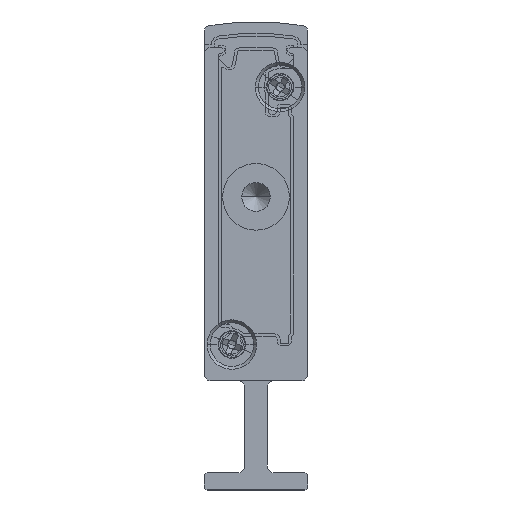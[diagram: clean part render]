
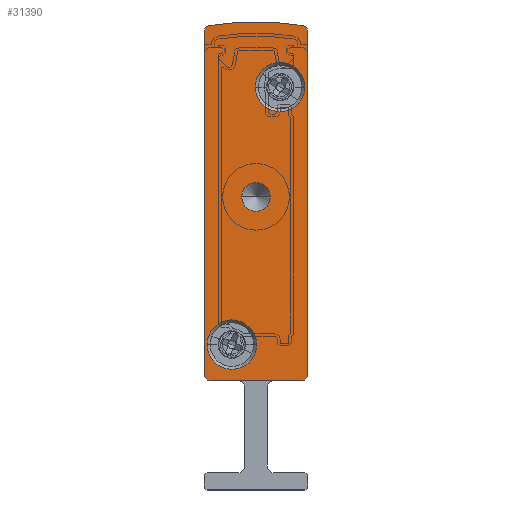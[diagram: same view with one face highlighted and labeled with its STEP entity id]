
A CAD part, front view. The second image highlights one B-rep face of the part: STEP entity #31390.
In plain terms, the highlighted planar face has unit normal (0, -1, 0).
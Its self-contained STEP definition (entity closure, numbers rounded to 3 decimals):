
#543 = DIRECTION ( 'NONE',  ( 0., 1., 0. ) ) ;
#758 = ORIENTED_EDGE ( 'NONE', *, *, #8945, .F. ) ;
#978 = CIRCLE ( 'NONE', #17399, 1.25 ) ;
#1006 = EDGE_LOOP ( 'NONE', ( #30851, #9257 ) ) ;
#1036 = ORIENTED_EDGE ( 'NONE', *, *, #18098, .F. ) ;
#1415 = VERTEX_POINT ( 'NONE', #18070 ) ;
#1698 = VERTEX_POINT ( 'NONE', #27567 ) ;
#1901 = ORIENTED_EDGE ( 'NONE', *, *, #25332, .F. ) ;
#1903 = FACE_BOUND ( 'NONE', #24017, .T. ) ;
#2108 = CARTESIAN_POINT ( 'NONE',  ( 8.75, -2.5, 35.05 ) ) ;
#2663 = CARTESIAN_POINT ( 'NONE',  ( 6.6, -2.5, 35.05 ) ) ;
#3103 = DIRECTION ( 'NONE',  ( -1., 0., 0. ) ) ;
#4769 = EDGE_CURVE ( 'NONE', #12207, #1415, #20512, .T. ) ;
#4867 = DIRECTION ( 'NONE',  ( 0., -1., 0. ) ) ;
#4934 = ORIENTED_EDGE ( 'NONE', *, *, #33069, .F. ) ;
#4964 = LINE ( 'NONE', #24997, #24645 ) ;
#5056 = DIRECTION ( 'NONE',  ( 0., 1., 0. ) ) ;
#5070 = CIRCLE ( 'NONE', #27342, 2.15 ) ;
#5125 = DIRECTION ( 'NONE',  ( 1., 0., 0. ) ) ;
#5697 = DIRECTION ( 'NONE',  ( 0., 0., -1. ) ) ;
#5745 = CIRCLE ( 'NONE', #10841, 23.658 ) ;
#6255 = AXIS2_PLACEMENT_3D ( 'NONE', #27697, #5056, #28049 ) ;
#6332 = DIRECTION ( 'NONE',  ( -1., 0., 0. ) ) ;
#6546 = CARTESIAN_POINT ( 'NONE',  ( 3.25, -2.5, 25.5 ) ) ;
#7008 = CARTESIAN_POINT ( 'NONE',  ( 0.5, -2.5, 9.5 ) ) ;
#7122 = FACE_BOUND ( 'NONE', #29402, .T. ) ;
#7312 = CIRCLE ( 'NONE', #9342, 2.15 ) ;
#7508 = CARTESIAN_POINT ( 'NONE',  ( 9., -2.5, 39.902 ) ) ;
#7965 = CARTESIAN_POINT ( 'NONE',  ( 0., -2.5, 39.902 ) ) ;
#8040 = CIRCLE ( 'NONE', #28547, 2.15 ) ;
#8945 = EDGE_CURVE ( 'NONE', #29368, #22353, #5745, .T. ) ;
#9257 = ORIENTED_EDGE ( 'NONE', *, *, #20342, .F. ) ;
#9342 = AXIS2_PLACEMENT_3D ( 'NONE', #28297, #4867, #17829 ) ;
#9797 = ORIENTED_EDGE ( 'NONE', *, *, #18052, .F. ) ;
#9821 = CIRCLE ( 'NONE', #20330, 2.15 ) ;
#9887 = CARTESIAN_POINT ( 'NONE',  ( 0., -2.5, 39.902 ) ) ;
#9938 = CARTESIAN_POINT ( 'NONE',  ( 4.5, -2.5, 25.5 ) ) ;
#10011 = CARTESIAN_POINT ( 'NONE',  ( 8.592, -2.5, 40.393 ) ) ;
#10577 = AXIS2_PLACEMENT_3D ( 'NONE', #26827, #13664, #31949 ) ;
#10786 = DIRECTION ( 'NONE',  ( 0., 1., 0. ) ) ;
#10841 = AXIS2_PLACEMENT_3D ( 'NONE', #20889, #10786, #28718 ) ;
#11107 = AXIS2_PLACEMENT_3D ( 'NONE', #13376, #20995, #13486 ) ;
#11274 = CIRCLE ( 'NONE', #11107, 0.5 ) ;
#11492 = CARTESIAN_POINT ( 'NONE',  ( 8.5, -2.5, 39.902 ) ) ;
#11592 = EDGE_CURVE ( 'NONE', #23079, #12207, #4964, .T. ) ;
#11868 = ORIENTED_EDGE ( 'NONE', *, *, #28988, .T. ) ;
#12207 = VERTEX_POINT ( 'NONE', #7008 ) ;
#13340 = CARTESIAN_POINT ( 'NONE',  ( 8.5, -2.5, 10. ) ) ;
#13376 = CARTESIAN_POINT ( 'NONE',  ( 0.5, -2.5, 39.902 ) ) ;
#13486 = DIRECTION ( 'NONE',  ( -1., 0., 0. ) ) ;
#13664 = DIRECTION ( 'NONE',  ( 0., 1., 0. ) ) ;
#13829 = ORIENTED_EDGE ( 'NONE', *, *, #21695, .T. ) ;
#13963 = FACE_BOUND ( 'NONE', #1006, .T. ) ;
#14088 = DIRECTION ( 'NONE',  ( 1., 0., 0. ) ) ;
#14430 = EDGE_LOOP ( 'NONE', ( #20345, #1036, #18154, #19951, #25477, #28944, #4934, #758 ) ) ;
#14652 = VERTEX_POINT ( 'NONE', #2108 ) ;
#14654 = VERTEX_POINT ( 'NONE', #7508 ) ;
#14868 = VERTEX_POINT ( 'NONE', #16371 ) ;
#15480 = DIRECTION ( 'NONE',  ( 0., -1., 0. ) ) ;
#15961 = FACE_OUTER_BOUND ( 'NONE', #14430, .T. ) ;
#16234 = VERTEX_POINT ( 'NONE', #6546 ) ;
#16371 = CARTESIAN_POINT ( 'NONE',  ( 0.25, -2.5, 12.65 ) ) ;
#17399 = AXIS2_PLACEMENT_3D ( 'NONE', #9938, #22840, #24973 ) ;
#17553 = CIRCLE ( 'NONE', #23535, 1.25 ) ;
#17632 = VERTEX_POINT ( 'NONE', #22971 ) ;
#17829 = DIRECTION ( 'NONE',  ( 1., 0., 0. ) ) ;
#17982 = DIRECTION ( 'NONE',  ( 1., 0., 0. ) ) ;
#18052 = EDGE_CURVE ( 'NONE', #1698, #14868, #5070, .T. ) ;
#18070 = CARTESIAN_POINT ( 'NONE',  ( 0., -2.5, 10. ) ) ;
#18098 = EDGE_CURVE ( 'NONE', #1415, #20911, #30369, .T. ) ;
#18154 = ORIENTED_EDGE ( 'NONE', *, *, #4769, .F. ) ;
#18671 = CARTESIAN_POINT ( 'NONE',  ( 9., -2.5, 39.902 ) ) ;
#18731 = EDGE_CURVE ( 'NONE', #14652, #19859, #9821, .T. ) ;
#19058 = CARTESIAN_POINT ( 'NONE',  ( 8.5, -2.5, 9.5 ) ) ;
#19076 = AXIS2_PLACEMENT_3D ( 'NONE', #11492, #28984, #6332 ) ;
#19859 = VERTEX_POINT ( 'NONE', #27737 ) ;
#19951 = ORIENTED_EDGE ( 'NONE', *, *, #11592, .F. ) ;
#19994 = EDGE_CURVE ( 'NONE', #20911, #29368, #11274, .T. ) ;
#20330 = AXIS2_PLACEMENT_3D ( 'NONE', #27126, #29413, #14088 ) ;
#20342 = EDGE_CURVE ( 'NONE', #19859, #14652, #8040, .T. ) ;
#20345 = ORIENTED_EDGE ( 'NONE', *, *, #19994, .F. ) ;
#20512 = CIRCLE ( 'NONE', #10577, 0.5 ) ;
#20538 = DIRECTION ( 'NONE',  ( 0., -1., 0. ) ) ;
#20889 = CARTESIAN_POINT ( 'NONE',  ( 4.5, -2.5, 17.092 ) ) ;
#20911 = VERTEX_POINT ( 'NONE', #9887 ) ;
#20927 = EDGE_CURVE ( 'NONE', #14654, #17632, #28761, .T. ) ;
#20995 = DIRECTION ( 'NONE',  ( 0., 1., 0. ) ) ;
#21498 = DIRECTION ( 'NONE',  ( 0., 1., 0. ) ) ;
#21695 = EDGE_CURVE ( 'NONE', #16234, #23379, #978, .T. ) ;
#22353 = VERTEX_POINT ( 'NONE', #10011 ) ;
#22840 = DIRECTION ( 'NONE',  ( 0., 1., 0. ) ) ;
#22971 = CARTESIAN_POINT ( 'NONE',  ( 9., -2.5, 10. ) ) ;
#23079 = VERTEX_POINT ( 'NONE', #19058 ) ;
#23379 = VERTEX_POINT ( 'NONE', #33268 ) ;
#23535 = AXIS2_PLACEMENT_3D ( 'NONE', #26845, #21498, #29473 ) ;
#24017 = EDGE_LOOP ( 'NONE', ( #9797, #1901 ) ) ;
#24354 = VECTOR ( 'NONE', #5697, 1000. ) ;
#24575 = AXIS2_PLACEMENT_3D ( 'NONE', #13340, #543, #3103 ) ;
#24645 = VECTOR ( 'NONE', #30246, 1000. ) ;
#24973 = DIRECTION ( 'NONE',  ( -1., 0., 0. ) ) ;
#24993 = EDGE_CURVE ( 'NONE', #17632, #23079, #25628, .T. ) ;
#24997 = CARTESIAN_POINT ( 'NONE',  ( 0.5, -2.5, 9.5 ) ) ;
#25332 = EDGE_CURVE ( 'NONE', #14868, #1698, #7312, .T. ) ;
#25477 = ORIENTED_EDGE ( 'NONE', *, *, #24993, .F. ) ;
#25628 = CIRCLE ( 'NONE', #24575, 0.5 ) ;
#26338 = VECTOR ( 'NONE', #31053, 1000. ) ;
#26827 = CARTESIAN_POINT ( 'NONE',  ( 0.5, -2.5, 10. ) ) ;
#26845 = CARTESIAN_POINT ( 'NONE',  ( 4.5, -2.5, 25.5 ) ) ;
#27126 = CARTESIAN_POINT ( 'NONE',  ( 6.6, -2.5, 35.05 ) ) ;
#27342 = AXIS2_PLACEMENT_3D ( 'NONE', #30838, #15480, #17982 ) ;
#27567 = CARTESIAN_POINT ( 'NONE',  ( 4.55, -2.5, 12.65 ) ) ;
#27697 = CARTESIAN_POINT ( 'NONE',  ( 0.5, -2.5, 39.902 ) ) ;
#27737 = CARTESIAN_POINT ( 'NONE',  ( 4.45, -2.5, 35.05 ) ) ;
#28049 = DIRECTION ( 'NONE',  ( -1., 0., 0. ) ) ;
#28297 = CARTESIAN_POINT ( 'NONE',  ( 2.4, -2.5, 12.65 ) ) ;
#28547 = AXIS2_PLACEMENT_3D ( 'NONE', #2663, #20538, #5125 ) ;
#28718 = DIRECTION ( 'NONE',  ( -1., 0., 0. ) ) ;
#28761 = LINE ( 'NONE', #18671, #24354 ) ;
#28944 = ORIENTED_EDGE ( 'NONE', *, *, #20927, .F. ) ;
#28984 = DIRECTION ( 'NONE',  ( 0., 1., 0. ) ) ;
#28988 = EDGE_CURVE ( 'NONE', #23379, #16234, #17553, .T. ) ;
#29368 = VERTEX_POINT ( 'NONE', #31366 ) ;
#29402 = EDGE_LOOP ( 'NONE', ( #13829, #11868 ) ) ;
#29413 = DIRECTION ( 'NONE',  ( 0., -1., 0. ) ) ;
#29473 = DIRECTION ( 'NONE',  ( -1., 0., 0. ) ) ;
#29714 = CIRCLE ( 'NONE', #19076, 0.5 ) ;
#30246 = DIRECTION ( 'NONE',  ( -1., 0., 0. ) ) ;
#30369 = LINE ( 'NONE', #7965, #26338 ) ;
#30838 = CARTESIAN_POINT ( 'NONE',  ( 2.4, -2.5, 12.65 ) ) ;
#30851 = ORIENTED_EDGE ( 'NONE', *, *, #18731, .F. ) ;
#31053 = DIRECTION ( 'NONE',  ( 0., 0., 1. ) ) ;
#31366 = CARTESIAN_POINT ( 'NONE',  ( 0.408, -2.5, 40.393 ) ) ;
#31390 = ADVANCED_FACE ( 'NONE', ( #13963, #1903, #15961, #7122 ), #32816, .F. ) ;
#31949 = DIRECTION ( 'NONE',  ( -1., 0., 0. ) ) ;
#32816 = PLANE ( 'NONE',  #6255 ) ;
#33069 = EDGE_CURVE ( 'NONE', #22353, #14654, #29714, .T. ) ;
#33268 = CARTESIAN_POINT ( 'NONE',  ( 5.75, -2.5, 25.5 ) ) ;
